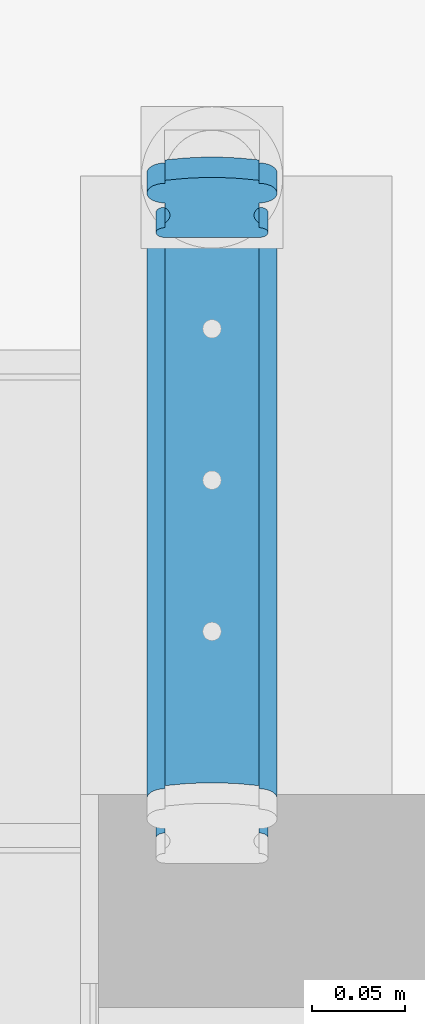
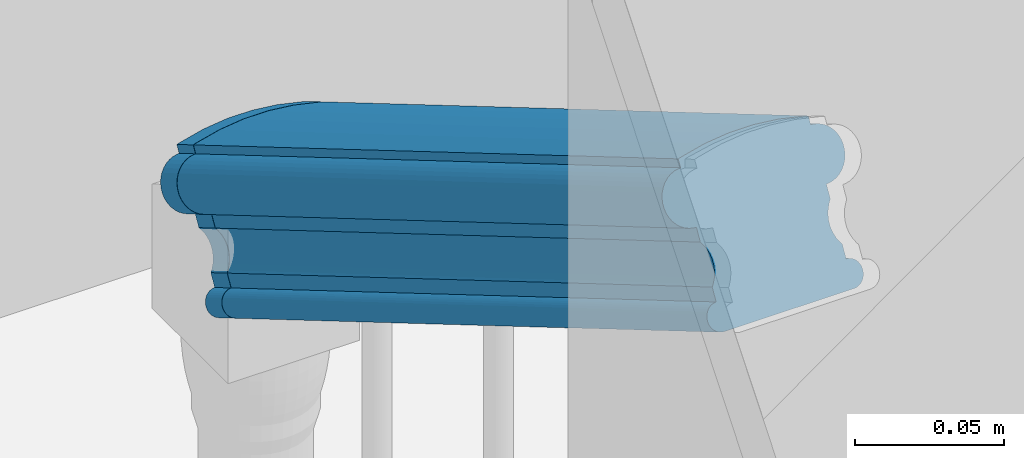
# One storey, part 8 of 24: 2 building element parts, 1 element without a shape of its own.
"""IFC2X3 building model written with IfcOpenShell, lengths in inches."""

import ifcopenshell
import ifcopenshell.guid

model = None  # the IFC model being written
_history = None  # IfcOwnerHistory: only IFC2X3 demands one
_inside = {}  # id of a spatial element -> (the spatial element, [elements in it])
_under = {}  # id of a project, library or spatial element -> (it, [spatial elements below it])
_declared = {}  # id of a project -> (the project, [libraries it declares])
_typed = {}  # id of a type object -> (the type object, [elements of that type])
_made_of = {}  # id of a material, layer set ... -> (it, [elements and type objects made of it])


def new_model(schema):
    """Start an empty IFC model of exactly this schema.

    Asked for "IFC4X3", IfcOpenShell would pick the latest addendum, in which some entities
    have other attributes; the version numbers below select the first issue.
    IFC2X3 requires an IfcOwnerHistory on every rooted entity: one is made here for all.
    """
    global model, _history
    if schema == "IFC4X3":
        model = ifcopenshell.file(schema_version=(4, 3, 0, 0))
    else:
        model = ifcopenshell.file(schema=schema)
    _inside.clear()
    _under.clear()
    _declared.clear()
    _typed.clear()
    _made_of.clear()
    _history = None
    if model.schema == "IFC2X3":
        org = make("IfcOrganization", Name="unknown")
        user = make(
            "IfcPersonAndOrganization",
            ThePerson=make("IfcPerson", FamilyName="unknown"),
            TheOrganization=org,
        )
        app = make(
            "IfcApplication",
            ApplicationDeveloper=org,
            Version="unknown",
            ApplicationFullName="unknown",
            ApplicationIdentifier="unknown",
        )
        _history = make(
            "IfcOwnerHistory",
            OwningUser=user,
            OwningApplication=app,
            ChangeAction="ADDED",
            CreationDate=0,
        )
    return model


def make(cls, **values):
    """One entity of the class cls with the attributes given. An attribute that is None is left unset."""
    return model.create_entity(
        cls, **{name: value for name, value in values.items() if value is not None}
    )


def entity(cls, *values):
    """Any entity or typed value of the class cls, its attributes in the order of the schema. None: left unset."""
    e = model.create_entity(cls)
    for i, value in enumerate(values):
        if value is not None:
            e[i] = value
    return e


def rooted(cls, **values):
    """An entity with a GlobalId (a new one), such as an element, a storey or a relation."""
    return make(cls, GlobalId=ifcopenshell.guid.new(), OwnerHistory=_history, **values)


def si_unit(unit_type, name, prefix=None):
    """IfcSIUnit, for example si_unit("LENGTHUNIT", "METRE", prefix="MILLI")."""
    return make("IfcSIUnit", UnitType=unit_type, Prefix=prefix, Name=name)


def converted_unit(unit_type, name, factor, base, dimensions=None, offset=None):
    """IfcConversionBasedUnit, such as the inch: factor (a typed value) times the base unit."""
    return make(
        "IfcConversionBasedUnit"
        if offset is None
        else "IfcConversionBasedUnitWithOffset",
        ConversionOffset=offset,
        Dimensions=None
        if dimensions is None
        else entity("IfcDimensionalExponents", *dimensions),
        UnitType=unit_type,
        Name=name,
        ConversionFactor=make(
            "IfcMeasureWithUnit", ValueComponent=factor, UnitComponent=base
        ),
    )


def derived_unit(unit_type, elements):
    """IfcDerivedUnit: a product of units, each with its exponent."""
    return make(
        "IfcDerivedUnit",
        Elements=[
            make("IfcDerivedUnitElement", Unit=unit, Exponent=power)
            for unit, power in elements
        ],
        UnitType=unit_type,
    )


def money_unit(currency):
    """IfcMonetaryUnit."""
    return make("IfcMonetaryUnit", Currency=currency)


def assignment(units):
    """IfcUnitAssignment: the units of a project."""
    return None if units is None else make("IfcUnitAssignment", Units=units)


def point(xyz):
    """IfcCartesianPoint."""
    return None if xyz is None else make("IfcCartesianPoint", Coordinates=xyz)


def direction(xyz):
    """IfcDirection."""
    return None if xyz is None else make("IfcDirection", DirectionRatios=xyz)


def frame(location, z_axis=None, x_axis=None):
    """IfcAxis2Placement3D, a coordinate frame: its origin and axes. An axis left out is left unset."""
    return make(
        "IfcAxis2Placement3D",
        Location=point(location),
        Axis=direction(z_axis),
        RefDirection=direction(x_axis),
    )


def origin_with_axes():
    """The frame at (0, 0, 0) with the z axis (0, 0, 1) and the x axis (1, 0, 0) written out."""
    return frame((0.0, 0.0, 0.0), z_axis=(0.0, 0.0, 1.0), x_axis=(1.0, 0.0, 0.0))


def place(relative_to, where):
    """IfcLocalPlacement: puts the frame where relative to a parent placement (None: the world)."""
    return make(
        "IfcLocalPlacement", PlacementRelTo=relative_to, RelativePlacement=where
    )


def context(
    kind, dimensions, precision=None, world=None, true_north=None, identifier=None
):
    """IfcGeometricRepresentationContext, for example the 3D "Model" context."""
    return make(
        "IfcGeometricRepresentationContext",
        ContextIdentifier=identifier,
        ContextType=kind,
        CoordinateSpaceDimension=dimensions,
        Precision=precision,
        WorldCoordinateSystem=world,
        TrueNorth=true_north,
    )


def subcontext(parent, identifier, kind, view, scale=None):
    """IfcGeometricRepresentationSubContext, for example "Body" below "Model"."""
    return make(
        "IfcGeometricRepresentationSubContext",
        ContextIdentifier=identifier,
        ContextType=kind,
        ParentContext=parent,
        TargetScale=scale,
        TargetView=view,
    )


def project(units=None, contexts=None):
    """IfcProject with its units and contexts."""
    return rooted(
        "IfcProject",
        Name="project",
        RepresentationContexts=contexts,
        UnitsInContext=assignment(units),
    )


def spatial(cls, under=None, at=None, **own):
    """A site, building, storey or space (cls), placed at a placement, below another one or the project."""
    s = rooted(cls, ObjectPlacement=at, **own)
    if under is not None:
        _under.setdefault(under.id(), (under, []))[1].append(s)
    return s


def faces_of(points, faces, orient=None, outer=None):
    """IfcFace entities. A face is a list of loops; a loop is a list of indices into points, from 0.

    orient and outer hold one flag for each loop. By default every Orientation is true, the
    first loop of a face is its IfcFaceOuterBound and the others are IfcFaceBound.
    """
    made = []
    for i, loops in enumerate(faces):
        bounds = []
        for j, loop in enumerate(loops):
            is_outer = j == 0 if outer is None else outer[i][j]
            bounds.append(
                make(
                    "IfcFaceOuterBound" if is_outer else "IfcFaceBound",
                    Bound=make("IfcPolyLoop", Polygon=[points[k] for k in loop]),
                    Orientation=True if orient is None else orient[i][j],
                )
            )
        made.append(make("IfcFace", Bounds=bounds))
    return made


def faceted_brep(points, faces, orient=None, outer=None, voids=None):
    """IfcFacetedBrep: a solid bounded by flat faces; with voids (closed shells), ...WithVoids."""
    shared = [point(p) for p in points]
    hull = make("IfcClosedShell", CfsFaces=faces_of(shared, faces, orient, outer))
    if voids is None:
        return make("IfcFacetedBrep", Outer=hull)
    return make(
        "IfcFacetedBrepWithVoids",
        Outer=hull,
        Voids=[
            make(cls, CfsFaces=faces_of(shared, fs, o, b)) for cls, fs, o, b in voids
        ],
    )


def shape(context_of_items, identifier, shape_type, items):
    """IfcShapeRepresentation: the items that make up one representation, for example the "Body"."""
    return make(
        "IfcShapeRepresentation",
        ContextOfItems=context_of_items,
        RepresentationIdentifier=identifier,
        RepresentationType=shape_type,
        Items=items,
    )


def material(Name=None, Category=None):
    """IfcMaterial."""
    return make("IfcMaterial", Name=Name, Category=Category)


def made_of(thing, what):
    """Note that an element or type object is made of a material, layer set ...; save() writes the relation."""
    if what is not None:
        _made_of.setdefault(what.id(), (what, []))[1].append(thing)
    return thing


def type_object(cls, material=None, **own):
    """A type object (cls), such as IfcWallType, which elements share."""
    return made_of(rooted(cls, **own), material)


def element(
    cls,
    number,
    at=None,
    inside=None,
    cuts=None,
    type_object=None,
    material=None,
    context=None,
    identifier="Body",
    shape_type=None,
    held_by="IfcProductDefinitionShape",
    body=None,
    shapes=None,
    **own,
):
    """One element of the class cls, such as IfcWall. Its Tag is "e" and its number.

    at: its placement. inside: the storey or other place that contains it. cuts: it is an
    opening in that element (IfcRelVoidsElement). A single representation is given by context,
    identifier, shape_type and body (its items); several are given by shapes. held_by: the class
    of the entity that holds the representations. save() writes the other relations.
    """
    e = rooted(cls, Tag="e%d" % number, ObjectPlacement=at, **own)
    if body is not None:
        shapes = [shape(context, identifier, shape_type, body)]
    if shapes is not None:
        e.Representation = make(held_by, Representations=shapes)
    if inside is not None:
        _inside.setdefault(inside.id(), (inside, []))[1].append(e)
    if cuts is not None:
        rooted(
            "IfcRelVoidsElement", RelatingBuildingElement=cuts, RelatedOpeningElement=e
        )
    if type_object is not None:
        _typed.setdefault(type_object.id(), (type_object, []))[1].append(e)
    return made_of(e, material)


def aggregate(whole, parts):
    """IfcRelAggregates: a whole, such as a stair, and the parts it consists of."""
    return rooted("IfcRelAggregates", RelatingObject=whole, RelatedObjects=parts)


def save(model, path):
    """Write the relations noted so far, then the file.

    IfcRelAggregates (storeys below a building ...), IfcRelContainedInSpatialStructure (elements
    in a storey), IfcRelDefinesByType, IfcRelAssociatesMaterial and IfcRelDeclares: one each for
    every whole, place, type object, material and project.
    """
    for whole, parts in _under.values():
        aggregate(whole, parts)
    for where, things in _inside.values():
        rooted(
            "IfcRelContainedInSpatialStructure",
            RelatedElements=things,
            RelatingStructure=where,
        )
    for kind, things in _typed.values():
        rooted("IfcRelDefinesByType", RelatedObjects=things, RelatingType=kind)
    for what, things in _made_of.values():
        rooted("IfcRelAssociatesMaterial", RelatedObjects=things, RelatingMaterial=what)
    for by, libraries in _declared.values():
        rooted("IfcRelDeclares", RelatingContext=by, RelatedDefinitions=libraries)
    model.write(path)


model = new_model("IFC2X3")

# Units and contexts
model_context = context("Model", 3, precision=0.000393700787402, world=origin_with_axes(), true_north=direction((0.0, 1.0)))
body_context = subcontext(model_context, "Body", "Model", "MODEL_VIEW")
ifc_project = project(units=[converted_unit("LENGTHUNIT", "INCH", entity("IfcPositiveLengthMeasure", 0.0254), si_unit("LENGTHUNIT", "METRE"), dimensions=[1, 0, 0, 0, 0, 0, 0]), converted_unit("AREAUNIT", "SQUARE_FOOT", entity("IfcPositiveLengthMeasure", 0.09290304), si_unit("AREAUNIT", "SQUARE_METRE"), dimensions=[2, 0, 0, 0, 0, 0, 0]), si_unit("PLANEANGLEUNIT", "RADIAN"), si_unit("SOLIDANGLEUNIT", "STERADIAN"), money_unit("USD"), converted_unit("TIMEUNIT", "Year", entity("IfcTimeMeasure", 31556926.0), si_unit("TIMEUNIT", "SECOND"), dimensions=[0, 0, 1, 0, 0, 0, 0]), si_unit("MASSUNIT", "GRAM", prefix="KILO"), si_unit("THERMODYNAMICTEMPERATUREUNIT", "DEGREE_CELSIUS"), si_unit("LUMINOUSINTENSITYUNIT", "LUMEN"), si_unit("ENERGYUNIT", "JOULE", prefix="MEGA"), derived_unit("THERMALCONDUCTANCEUNIT", [(si_unit("POWERUNIT", "WATT"), 1), (si_unit("LENGTHUNIT", "METRE"), -1), (si_unit("THERMODYNAMICTEMPERATUREUNIT", "KELVIN"), -1)]), derived_unit("SPECIFICHEATCAPACITYUNIT", [(si_unit("ENERGYUNIT", "JOULE"), 1), (si_unit("MASSUNIT", "GRAM", prefix="KILO"), -1), (si_unit("THERMODYNAMICTEMPERATUREUNIT", "KELVIN"), -1)]), derived_unit("MASSDENSITYUNIT", [(si_unit("MASSUNIT", "GRAM", prefix="KILO"), 1), (si_unit("VOLUMEUNIT", "CUBIC_METRE"), -1)])], contexts=[model_context])

# Site, building, storey
site_placement = place(None, origin_with_axes())
site = spatial("IfcSite", under=ifc_project, at=site_placement, Name="Site", CompositionType="ELEMENT")
building_placement = place(site_placement, origin_with_axes())
building = spatial("IfcBuilding", under=site, at=building_placement, Name="Building", CompositionType="ELEMENT")
storey_placement = place(building_placement, origin_with_axes())
storey = spatial("IfcBuildingStorey", under=building, at=storey_placement, Name="First Floor", CompositionType="ELEMENT", Elevation=0.0)

# Railing, building element parts
railing_type = type_object("IfcRailingType", Name="Railing Type", PredefinedType="NOTDEFINED")
railing_placement = place(storey_placement, frame((687.845851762, 140.777338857, -3.51027133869e-07), z_axis=(0.0, 0.0, 1.0), x_axis=(1.0, 0.0, 0.0)))
railing = element("IfcRailing", 1, at=railing_placement, inside=storey, type_object=railing_type, Name="RAILING - 003", PredefinedType="NOTDEFINED")
ifc_material = material(Name="Wood - Structural")
building_element_part_1_placement = place(railing_placement, origin_with_axes())
building_element_part_1 = element("IfcBuildingElementPart", 2, at=building_element_part_1_placement, material=ifc_material, Name="Wood - Structural", context=body_context, shape_type="Brep", body=[
    faceted_brep([(-0.97830768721, 17.09938506, 39.2643890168), (-0.97830768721, 17.03715338, 39.1586992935), (-0.97830768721, 17.4680113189, 38.9050037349), (-0.97830768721, 17.530242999, 39.0106934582), (-1.03685591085, 17.1066135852, 39.2766654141), (-1.40666376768, 17.1417652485, 39.3363644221), (-1.78074756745, 17.159408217, 39.3663279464), (-2.15626030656, 17.159408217, 39.3663279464), (-2.53034410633, 17.1417652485, 39.3363644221), (-2.90015196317, 17.1066135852, 39.2766654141), (-2.95870018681, 17.09938506, 39.2643890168), (-2.95870018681, 17.03715338, 39.1586992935), (-2.99223804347, 17.0363640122, 39.1573586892), (-3.05829472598, 17.0300850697, 39.1466949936), (-3.12132527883, 17.0177179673, 39.1256916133), (-3.17941455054, 16.9996384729, 39.0949867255), (-3.230797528, 16.9763959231, 39.0555132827), (-3.27391296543, 16.9486965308, 39.0084706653), (-3.30745082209, 16.917381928, 38.9552882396), (-3.33039206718, 16.8834035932, 38.8975819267), (-3.34203964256, 16.8477939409, 38.8371051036), (-3.34203964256, 16.8116349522, 38.775695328), (-3.33039206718, 16.7760252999, 38.7152185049), (-3.30745082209, 16.7420469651, 38.657512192), (-3.27391296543, 16.7107323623, 38.6043297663), (-3.230797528, 16.68303297, 38.5572871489), (-3.17941455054, 16.6597904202, 38.5178137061), (-3.12132527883, 16.6417109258, 38.4871088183), (-3.05829472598, 16.6293438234, 38.4661054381), (-2.99223804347, 16.6230648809, 38.4554417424), (-2.95870018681, 16.6222755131, 38.4541011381), (-2.95870018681, 16.5185560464, 38.2779515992), (-2.93612331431, 16.502600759, 38.2508543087), (-2.89633013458, 16.465445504, 38.1877525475), (-2.86910999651, 16.4251296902, 38.1192831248), (-2.85528997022, 16.3828782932, 38.0475264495), (-2.85528997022, 16.3399751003, 37.9746628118), (-2.86910999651, 16.2977237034, 37.9029061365), (-2.89633013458, 16.2574078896, 37.8344367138), (-2.93612331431, 16.2202526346, 37.7713349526), (-2.95870018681, 16.2042973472, 37.7442376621), (-2.95870018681, 16.1005778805, 37.5680881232), (-2.97546911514, 16.1001831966, 37.567417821), (-3.0084974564, 16.0970437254, 37.5620859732), (-3.04001273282, 16.0908601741, 37.5515842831), (-3.06905736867, 16.081820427, 37.5362318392), (-3.0947488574, 16.070199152, 37.5164951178), (-3.11630657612, 16.0563494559, 37.4929738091), (-3.13307550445, 16.0406921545, 37.4663825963), (-3.14454612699, 16.0237029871, 37.4375294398), (-3.15036991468, 16.0058981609, 37.4072910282), (-3.15036991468, 15.9878186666, 37.3765861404), (-3.14454612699, 15.9700138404, 37.3463477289), (-3.13307550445, 15.953024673, 37.3174945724), (-3.11630657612, 15.9373673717, 37.2909033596), (-3.0947488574, 15.9235176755, 37.2673820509), (-3.06905736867, 15.9118964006, 37.2476453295), (-3.04001273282, 15.9028566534, 37.2322928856), (-3.0084974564, 15.8966731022, 37.2217911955), (-2.97546911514, 15.8935336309, 37.2164593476), (-2.95870018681, 15.893138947, 37.2157890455), (-0.97830768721, 15.893138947, 37.2157890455), (-0.96153875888, 15.8935336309, 37.2164593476), (-0.928510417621, 15.8966731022, 37.2217911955), (-0.896995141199, 15.9028566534, 37.2322928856), (-0.867950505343, 15.9118964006, 37.2476453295), (-0.842259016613, 15.9235176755, 37.2673820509), (-0.820701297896, 15.9373673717, 37.2909033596), (-0.803932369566, 15.953024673, 37.3174945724), (-0.792461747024, 15.9700138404, 37.3463477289), (-0.786637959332, 15.9878186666, 37.3765861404), (-0.786637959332, 16.0058981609, 37.4072910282), (-0.792461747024, 16.0237029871, 37.4375294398), (-0.803932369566, 16.0406921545, 37.4663825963), (-0.820701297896, 16.0563494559, 37.4929738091), (-0.842259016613, 16.070199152, 37.5164951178), (-0.867950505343, 16.081820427, 37.5362318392), (-0.896995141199, 16.0908601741, 37.5515842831), (-0.928510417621, 16.0970437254, 37.5620859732), (-0.96153875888, 16.1001831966, 37.567417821), (-0.97830768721, 16.1005778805, 37.5680881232), (-0.97830768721, 16.2042973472, 37.7442376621), (-1.00088455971, 16.2202526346, 37.7713349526), (-1.04067773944, 16.2574078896, 37.8344367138), (-1.06789787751, 16.2977237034, 37.9029061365), (-1.08171790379, 16.3399751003, 37.9746628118), (-1.08171790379, 16.3828782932, 38.0475264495), (-1.06789787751, 16.4251296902, 38.1192831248), (-1.04067773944, 16.465445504, 38.1877525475), (-1.00088455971, 16.502600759, 38.2508543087), (-0.97830768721, 16.5185560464, 38.2779515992), (-0.97830768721, 16.6222755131, 38.4541011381), (-0.944769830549, 16.6230648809, 38.4554417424), (-0.878713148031, 16.6293438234, 38.4661054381), (-0.815682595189, 16.6417109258, 38.4871088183), (-0.757593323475, 16.6597904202, 38.5178137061), (-0.706210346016, 16.68303297, 38.5572871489), (-0.663094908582, 16.7107323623, 38.6043297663), (-0.629557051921, 16.7420469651, 38.657512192), (-0.606615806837, 16.7760252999, 38.7152185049), (-0.594968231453, 16.8116349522, 38.775695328), (-0.594968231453, 16.8477939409, 38.8371051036), (-0.606615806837, 16.8834035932, 38.8975819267), (-0.629557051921, 16.917381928, 38.9552882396), (-0.663094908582, 16.9486965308, 39.0084706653), (-0.706210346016, 16.9763959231, 39.0555132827), (-0.757593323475, 16.9996384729, 39.0949867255), (-0.815682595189, 17.0177179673, 39.1256916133), (-0.878713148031, 17.0300850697, 39.1466949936), (-0.944769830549, 17.0363640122, 39.1573586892), (-0.944769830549, 17.4672219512, 38.9036631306), (-0.878713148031, 17.4609430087, 38.8929994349), (-0.815682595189, 17.4485759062, 38.8719960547), (-0.757593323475, 17.4304964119, 38.8412911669), (-0.706210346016, 17.407253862, 38.8018177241), (-0.663094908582, 17.3795544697, 38.7547751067), (-0.629557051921, 17.348239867, 38.701592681), (-0.606615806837, 17.3142615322, 38.6438863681), (-0.594968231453, 17.2786518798, 38.583409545), (-0.594968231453, 17.2424928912, 38.5219997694), (-0.606615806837, 17.2068832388, 38.4615229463), (-0.629557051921, 17.172904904, 38.4038166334), (-0.663094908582, 17.1415903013, 38.3506342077), (-0.706210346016, 17.113890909, 38.3035915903), (-0.757593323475, 17.0906483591, 38.2641181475), (-0.815682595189, 17.0725688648, 38.2334132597), (-0.878713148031, 17.0602017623, 38.2124098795), (-0.944769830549, 17.0539228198, 38.2017461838), (-0.97830768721, 17.053133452, 38.2004055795), (-0.97830768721, 16.9494139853, 38.0242560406), (-1.00088455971, 16.9334586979, 37.9971587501), (-1.04067773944, 16.8963034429, 37.9340569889), (-1.06789787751, 16.8559876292, 37.8655875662), (-1.08171790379, 16.8137362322, 37.7938308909), (-1.08171790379, 16.7708330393, 37.7209672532), (-1.06789787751, 16.7285816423, 37.6492105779), (-1.04067773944, 16.6882658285, 37.5807411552), (-1.00088455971, 16.6511105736, 37.517639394), (-0.97830768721, 16.6351552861, 37.4905421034), (-0.97830768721, 16.5314358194, 37.3143925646), (-0.96153875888, 16.5310411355, 37.3137222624), (-0.928510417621, 16.5279016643, 37.3083904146), (-0.896995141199, 16.5217181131, 37.2978887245), (-0.867950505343, 16.5126783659, 37.2825362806), (-0.842259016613, 16.501057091, 37.2627995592), (-0.820701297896, 16.4872073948, 37.2392782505), (-0.803932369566, 16.4715500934, 37.2126870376), (-0.792461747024, 16.454560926, 37.1838338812), (-0.786637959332, 16.4367560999, 37.1535954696), (-0.786637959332, 16.4186766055, 37.1228905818), (-0.792461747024, 16.4008717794, 37.0926521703), (-0.803932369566, 16.383882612, 37.0637990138), (-0.820701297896, 16.3682253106, 37.037207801), (-0.842259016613, 16.3543756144, 37.0136864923), (-0.867950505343, 16.3427543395, 36.9939497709), (-0.896995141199, 16.3337145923, 36.978597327), (-0.928510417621, 16.3275310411, 36.9680956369), (-0.96153875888, 16.3243915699, 36.962763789), (-0.97830768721, 16.323996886, 36.9620934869), (-2.95870018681, 16.323996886, 36.9620934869), (-2.97546911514, 16.3243915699, 36.962763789), (-3.0084974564, 16.3275310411, 36.9680956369), (-3.04001273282, 16.3337145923, 36.978597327), (-3.06905736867, 16.3427543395, 36.9939497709), (-3.0947488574, 16.3543756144, 37.0136864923), (-3.11630657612, 16.3682253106, 37.037207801), (-3.13307550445, 16.383882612, 37.0637990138), (-3.14454612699, 16.4008717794, 37.0926521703), (-3.15036991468, 16.4186766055, 37.1228905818), (-3.15036991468, 16.4367560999, 37.1535954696), (-3.14454612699, 16.454560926, 37.1838338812), (-3.13307550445, 16.4715500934, 37.2126870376), (-3.11630657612, 16.4872073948, 37.2392782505), (-3.0947488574, 16.501057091, 37.2627995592), (-3.06905736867, 16.5126783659, 37.2825362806), (-3.04001273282, 16.5217181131, 37.2978887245), (-3.0084974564, 16.5279016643, 37.3083904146), (-2.97546911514, 16.5310411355, 37.3137222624), (-2.95870018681, 16.5314358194, 37.3143925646), (-2.95870018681, 16.6351552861, 37.4905421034), (-2.93612331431, 16.6511105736, 37.517639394), (-2.89633013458, 16.6882658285, 37.5807411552), (-2.86910999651, 16.7285816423, 37.6492105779), (-2.85528997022, 16.7708330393, 37.7209672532), (-2.85528997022, 16.8137362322, 37.7938308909), (-2.86910999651, 16.8559876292, 37.8655875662), (-2.89633013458, 16.8963034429, 37.9340569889), (-2.93612331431, 16.9334586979, 37.9971587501), (-2.95870018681, 16.9494139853, 38.0242560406), (-2.95870018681, 17.053133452, 38.2004055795), (-2.99223804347, 17.0539228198, 38.2017461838), (-3.05829472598, 17.0602017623, 38.2124098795), (-3.12132527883, 17.0725688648, 38.2334132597), (-3.17941455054, 17.0906483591, 38.2641181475), (-3.230797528, 17.113890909, 38.3035915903), (-3.27391296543, 17.1415903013, 38.3506342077), (-3.30745082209, 17.172904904, 38.4038166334), (-3.33039206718, 17.2068832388, 38.4615229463), (-3.34203964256, 17.2424928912, 38.5219997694), (-3.34203964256, 17.2786518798, 38.583409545), (-3.33039206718, 17.3142615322, 38.6438863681), (-3.30745082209, 17.348239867, 38.701592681), (-3.27391296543, 17.3795544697, 38.7547751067), (-3.230797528, 17.407253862, 38.8018177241), (-3.17941455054, 17.4304964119, 38.8412911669), (-3.12132527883, 17.4485759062, 38.8719960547), (-3.05829472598, 17.4609430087, 38.8929994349), (-2.99223804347, 17.4672219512, 38.9036631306), (-2.95870018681, 17.4680113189, 38.9050037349), (-2.95870018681, 17.530242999, 39.0106934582), (-2.90015196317, 17.5374715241, 39.0229698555), (-2.53034410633, 17.5726231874, 39.0826688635), (-2.15626030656, 17.5902661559, 39.1126323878), (-1.78074756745, 17.5902661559, 39.1126323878), (-1.40666376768, 17.5726231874, 39.0826688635), (-1.03685591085, 17.5374715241, 39.0229698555)], [[[0, 1, 2, 3]], [[0, 4, 5, 6, 7, 8, 9, 10, 11, 12, 13, 14, 15, 16, 17, 18, 19, 20, 21, 22, 23, 24, 25, 26, 27, 28, 29, 30, 31, 32, 33, 34, 35, 36, 37, 38, 39, 40, 41, 42, 43, 44, 45, 46, 47, 48, 49, 50, 51, 52, 53, 54, 55, 56, 57, 58, 59, 60, 61, 62, 63, 64, 65, 66, 67, 68, 69, 70, 71, 72, 73, 74, 75, 76, 77, 78, 79, 80, 81, 82, 83, 84, 85, 86, 87, 88, 89, 90, 91, 92, 93, 94, 95, 96, 97, 98, 99, 100, 101, 102, 103, 104, 105, 106, 107, 108, 109, 1]], [[1, 109, 110, 2]], [[3, 2, 110, 111, 112, 113, 114, 115, 116, 117, 118, 119, 120, 121, 122, 123, 124, 125, 126, 127, 128, 129, 130, 131, 132, 133, 134, 135, 136, 137, 138, 139, 140, 141, 142, 143, 144, 145, 146, 147, 148, 149, 150, 151, 152, 153, 154, 155, 156, 157, 158, 159, 160, 161, 162, 163, 164, 165, 166, 167, 168, 169, 170, 171, 172, 173, 174, 175, 176, 177, 178, 179, 180, 181, 182, 183, 184, 185, 186, 187, 188, 189, 190, 191, 192, 193, 194, 195, 196, 197, 198, 199, 200, 201, 202, 203, 204, 205, 206, 207, 208, 209, 210, 211, 212, 213, 214, 215]], [[4, 0, 3, 215]], [[5, 4, 215, 214]], [[6, 5, 214, 213]], [[7, 6, 213, 212]], [[8, 7, 212, 211]], [[9, 8, 211, 210]], [[10, 9, 210, 209]], [[11, 10, 209, 208]], [[12, 11, 208, 207]], [[13, 12, 207, 206]], [[14, 13, 206, 205]], [[15, 14, 205, 204]], [[16, 15, 204, 203]], [[17, 16, 203, 202]], [[18, 17, 202, 201]], [[19, 18, 201, 200]], [[20, 19, 200, 199]], [[21, 20, 199, 198]], [[22, 21, 198, 197]], [[23, 22, 197, 196]], [[24, 23, 196, 195]], [[25, 24, 195, 194]], [[26, 25, 194, 193]], [[27, 26, 193, 192]], [[28, 27, 192, 191]], [[29, 28, 191, 190]], [[30, 29, 190, 189]], [[31, 30, 189, 188]], [[32, 31, 188, 187]], [[33, 32, 187, 186]], [[34, 33, 186, 185]], [[35, 34, 185, 184]], [[36, 35, 184, 183]], [[37, 36, 183, 182]], [[38, 37, 182, 181]], [[39, 38, 181, 180]], [[40, 39, 180, 179]], [[41, 40, 179, 178]], [[42, 41, 178, 177]], [[43, 42, 177, 176]], [[44, 43, 176, 175]], [[45, 44, 175, 174]], [[46, 45, 174, 173]], [[47, 46, 173, 172]], [[48, 47, 172, 171]], [[49, 48, 171, 170]], [[50, 49, 170, 169]], [[51, 50, 169, 168]], [[52, 51, 168, 167]], [[53, 52, 167, 166]], [[54, 53, 166, 165]], [[55, 54, 165, 164]], [[56, 55, 164, 163]], [[57, 56, 163, 162]], [[58, 57, 162, 161]], [[59, 58, 161, 160]], [[60, 59, 160, 159]], [[61, 60, 159, 158]], [[62, 61, 158, 157]], [[63, 62, 157, 156]], [[64, 63, 156, 155]], [[65, 64, 155, 154]], [[66, 65, 154, 153]], [[67, 66, 153, 152]], [[68, 67, 152, 151]], [[69, 68, 151, 150]], [[70, 69, 150, 149]], [[71, 70, 149, 148]], [[72, 71, 148, 147]], [[73, 72, 147, 146]], [[74, 73, 146, 145]], [[75, 74, 145, 144]], [[76, 75, 144, 143]], [[77, 76, 143, 142]], [[78, 77, 142, 141]], [[79, 78, 141, 140]], [[80, 79, 140, 139]], [[81, 80, 139, 138]], [[82, 81, 138, 137]], [[83, 82, 137, 136]], [[84, 83, 136, 135]], [[85, 84, 135, 134]], [[86, 85, 134, 133]], [[87, 86, 133, 132]], [[88, 87, 132, 131]], [[89, 88, 131, 130]], [[90, 89, 130, 129]], [[91, 90, 129, 128]], [[92, 91, 128, 127]], [[93, 92, 127, 126]], [[94, 93, 126, 125]], [[95, 94, 125, 124]], [[96, 95, 124, 123]], [[97, 96, 123, 122]], [[98, 97, 122, 121]], [[99, 98, 121, 120]], [[100, 99, 120, 119]], [[101, 100, 119, 118]], [[102, 101, 118, 117]], [[103, 102, 117, 116]], [[104, 103, 116, 115]], [[105, 104, 115, 114]], [[106, 105, 114, 113]], [[107, 106, 113, 112]], [[108, 107, 112, 111]], [[109, 108, 111, 110]]]),
])
building_element_part_2_placement = place(railing_placement, origin_with_axes())
building_element_part_2 = element("IfcBuildingElementPart", 3, at=building_element_part_2_placement, material=ifc_material, Name="Wood - Structural", context=body_context, shape_type="Brep", body=[
    faceted_brep([(-0.97830768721, 4.31198348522, 46.7938011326), (-0.97830768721, 4.24975180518, 46.6881114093), (-0.97830768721, 17.03715338, 39.1586992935), (-0.97830768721, 17.09938506, 39.2643890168), (-1.03685591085, 4.31921201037, 46.8060775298), (-1.40666376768, 4.35436367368, 46.8657765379), (-1.78074756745, 4.37200664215, 46.8957400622), (-2.15626030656, 4.37200664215, 46.8957400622), (-2.53034410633, 4.35436367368, 46.8657765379), (-2.90015196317, 4.31921201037, 46.8060775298), (-2.95870018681, 4.31198348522, 46.7938011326), (-2.95870018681, 4.24975180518, 46.6881114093), (-2.99223804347, 4.24896243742, 46.6867708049), (-3.05829472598, 4.24268349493, 46.6761071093), (-3.12132527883, 4.23031639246, 46.655103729), (-3.17941455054, 4.21223689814, 46.6243988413), (-3.230797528, 4.18899434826, 46.5849253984), (-3.27391296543, 4.16129495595, 46.5378827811), (-3.30745082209, 4.12998035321, 46.4847003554), (-3.33039206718, 4.09600201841, 46.4269940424), (-3.34203964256, 4.06039236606, 46.3665172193), (-3.34203964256, 4.02423337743, 46.3051074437), (-3.33039206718, 3.98862372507, 46.2446306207), (-3.30745082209, 3.95464539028, 46.1869243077), (-3.27391296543, 3.92333078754, 46.133741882), (-3.230797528, 3.89563139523, 46.0866992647), (-3.17941455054, 3.87238884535, 46.0472258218), (-3.12132527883, 3.85430935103, 46.016520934), (-3.05829472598, 3.84194224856, 45.9955175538), (-2.99223804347, 3.83566330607, 45.9848538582), (-2.95870018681, 3.8348739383, 45.9835132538), (-2.95870018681, 3.73115447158, 45.807363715), (-2.93612331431, 3.71519918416, 45.7802664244), (-2.89633013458, 3.67804392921, 45.7171646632), (-2.86910999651, 3.63772811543, 45.6486952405), (-2.85528997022, 3.59547671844, 45.5769385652), (-2.85528997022, 3.55257352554, 45.5040749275), (-2.86910999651, 3.51032212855, 45.4323182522), (-2.89633013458, 3.47000631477, 45.3638488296), (-2.93612331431, 3.43285105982, 45.3007470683), (-2.95870018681, 3.4168957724, 45.2736497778), (-2.95870018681, 3.31317630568, 45.0975002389), (-2.97546911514, 3.31278162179, 45.0968299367), (-3.0084974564, 3.30964215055, 45.0914980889), (-3.04001273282, 3.30345859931, 45.0809963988), (-3.06905736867, 3.29441885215, 45.0656439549), (-3.0947488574, 3.28279757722, 45.0459072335), (-3.11630657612, 3.26894788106, 45.0223859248), (-3.13307550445, 3.25329057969, 44.995794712), (-3.14454612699, 3.23630141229, 44.9669415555), (-3.15036991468, 3.21849658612, 44.936703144), (-3.15036991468, 3.2004170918, 44.9059982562), (-3.14454612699, 3.18261226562, 44.8757598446), (-3.13307550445, 3.16562309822, 44.8469066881), (-3.11630657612, 3.14996579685, 44.8203154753), (-3.0947488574, 3.1361161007, 44.7967941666), (-3.06905736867, 3.12449482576, 44.7770574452), (-3.04001273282, 3.1154550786, 44.7617050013), (-3.0084974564, 3.10927152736, 44.7512033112), (-2.97546911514, 3.10613205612, 44.7458714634), (-2.95870018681, 3.10573737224, 44.7452011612), (-0.97830768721, 3.10573737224, 44.7452011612), (-0.96153875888, 3.10613205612, 44.7458714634), (-0.928510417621, 3.10927152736, 44.7512033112), (-0.896995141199, 3.1154550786, 44.7617050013), (-0.867950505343, 3.12449482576, 44.7770574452), (-0.842259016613, 3.1361161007, 44.7967941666), (-0.820701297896, 3.14996579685, 44.8203154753), (-0.803932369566, 3.16562309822, 44.8469066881), (-0.792461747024, 3.18261226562, 44.8757598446), (-0.786637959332, 3.2004170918, 44.9059982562), (-0.786637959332, 3.21849658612, 44.936703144), (-0.792461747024, 3.23630141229, 44.9669415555), (-0.803932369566, 3.25329057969, 44.995794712), (-0.820701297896, 3.26894788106, 45.0223859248), (-0.842259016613, 3.28279757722, 45.0459072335), (-0.867950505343, 3.29441885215, 45.0656439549), (-0.896995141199, 3.30345859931, 45.0809963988), (-0.928510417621, 3.30964215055, 45.0914980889), (-0.96153875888, 3.31278162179, 45.0968299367), (-0.97830768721, 3.31317630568, 45.0975002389), (-0.97830768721, 3.4168957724, 45.2736497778), (-1.00088455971, 3.43285105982, 45.3007470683), (-1.04067773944, 3.47000631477, 45.3638488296), (-1.06789787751, 3.51032212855, 45.4323182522), (-1.08171790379, 3.55257352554, 45.5040749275), (-1.08171790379, 3.59547671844, 45.5769385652), (-1.06789787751, 3.63772811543, 45.6486952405), (-1.04067773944, 3.67804392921, 45.7171646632), (-1.00088455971, 3.71519918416, 45.7802664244), (-0.97830768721, 3.73115447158, 45.807363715), (-0.97830768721, 3.8348739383, 45.9835132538), (-0.944769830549, 3.83566330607, 45.9848538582), (-0.878713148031, 3.84194224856, 45.9955175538), (-0.815682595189, 3.85430935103, 46.016520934), (-0.757593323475, 3.87238884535, 46.0472258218), (-0.706210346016, 3.89563139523, 46.0866992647), (-0.663094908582, 3.92333078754, 46.133741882), (-0.629557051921, 3.95464539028, 46.1869243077), (-0.606615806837, 3.98862372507, 46.2446306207), (-0.594968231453, 4.02423337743, 46.3051074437), (-0.594968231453, 4.06039236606, 46.3665172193), (-0.606615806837, 4.09600201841, 46.4269940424), (-0.629557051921, 4.12998035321, 46.4847003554), (-0.663094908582, 4.16129495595, 46.5378827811), (-0.706210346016, 4.18899434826, 46.5849253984), (-0.757593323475, 4.21223689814, 46.6243988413), (-0.815682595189, 4.23031639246, 46.655103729), (-0.878713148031, 4.24268349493, 46.6761071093), (-0.944769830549, 4.24896243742, 46.6867708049), (-0.944769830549, 17.0363640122, 39.1573586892), (-0.878713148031, 17.0300850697, 39.1466949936), (-0.815682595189, 17.0177179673, 39.1256916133), (-0.757593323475, 16.9996384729, 39.0949867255), (-0.706210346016, 16.9763959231, 39.0555132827), (-0.663094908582, 16.9486965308, 39.0084706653), (-0.629557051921, 16.917381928, 38.9552882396), (-0.606615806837, 16.8834035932, 38.8975819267), (-0.594968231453, 16.8477939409, 38.8371051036), (-0.594968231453, 16.8116349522, 38.775695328), (-0.606615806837, 16.7760252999, 38.7152185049), (-0.629557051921, 16.7420469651, 38.657512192), (-0.663094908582, 16.7107323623, 38.6043297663), (-0.706210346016, 16.68303297, 38.5572871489), (-0.757593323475, 16.6597904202, 38.5178137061), (-0.815682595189, 16.6417109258, 38.4871088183), (-0.878713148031, 16.6293438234, 38.4661054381), (-0.944769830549, 16.6230648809, 38.4554417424), (-0.97830768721, 16.6222755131, 38.4541011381), (-0.97830768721, 16.5185560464, 38.2779515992), (-1.00088455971, 16.502600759, 38.2508543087), (-1.04067773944, 16.465445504, 38.1877525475), (-1.06789787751, 16.4251296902, 38.1192831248), (-1.08171790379, 16.3828782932, 38.0475264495), (-1.08171790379, 16.3399751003, 37.9746628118), (-1.06789787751, 16.2977237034, 37.9029061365), (-1.04067773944, 16.2574078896, 37.8344367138), (-1.00088455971, 16.2202526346, 37.7713349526), (-0.97830768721, 16.2042973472, 37.7442376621), (-0.97830768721, 16.1005778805, 37.5680881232), (-0.96153875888, 16.1001831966, 37.567417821), (-0.928510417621, 16.0970437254, 37.5620859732), (-0.896995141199, 16.0908601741, 37.5515842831), (-0.867950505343, 16.081820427, 37.5362318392), (-0.842259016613, 16.070199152, 37.5164951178), (-0.820701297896, 16.0563494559, 37.4929738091), (-0.803932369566, 16.0406921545, 37.4663825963), (-0.792461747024, 16.0237029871, 37.4375294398), (-0.786637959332, 16.0058981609, 37.4072910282), (-0.786637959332, 15.9878186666, 37.3765861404), (-0.792461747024, 15.9700138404, 37.3463477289), (-0.803932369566, 15.953024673, 37.3174945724), (-0.820701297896, 15.9373673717, 37.2909033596), (-0.842259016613, 15.9235176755, 37.2673820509), (-0.867950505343, 15.9118964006, 37.2476453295), (-0.896995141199, 15.9028566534, 37.2322928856), (-0.928510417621, 15.8966731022, 37.2217911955), (-0.96153875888, 15.8935336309, 37.2164593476), (-0.97830768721, 15.893138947, 37.2157890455), (-2.95870018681, 15.893138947, 37.2157890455), (-2.97546911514, 15.8935336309, 37.2164593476), (-3.0084974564, 15.8966731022, 37.2217911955), (-3.04001273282, 15.9028566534, 37.2322928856), (-3.06905736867, 15.9118964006, 37.2476453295), (-3.0947488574, 15.9235176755, 37.2673820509), (-3.11630657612, 15.9373673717, 37.2909033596), (-3.13307550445, 15.953024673, 37.3174945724), (-3.14454612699, 15.9700138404, 37.3463477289), (-3.15036991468, 15.9878186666, 37.3765861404), (-3.15036991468, 16.0058981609, 37.4072910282), (-3.14454612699, 16.0237029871, 37.4375294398), (-3.13307550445, 16.0406921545, 37.4663825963), (-3.11630657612, 16.0563494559, 37.4929738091), (-3.0947488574, 16.070199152, 37.5164951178), (-3.06905736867, 16.081820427, 37.5362318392), (-3.04001273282, 16.0908601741, 37.5515842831), (-3.0084974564, 16.0970437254, 37.5620859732), (-2.97546911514, 16.1001831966, 37.567417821), (-2.95870018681, 16.1005778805, 37.5680881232), (-2.95870018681, 16.2042973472, 37.7442376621), (-2.93612331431, 16.2202526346, 37.7713349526), (-2.89633013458, 16.2574078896, 37.8344367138), (-2.86910999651, 16.2977237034, 37.9029061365), (-2.85528997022, 16.3399751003, 37.9746628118), (-2.85528997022, 16.3828782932, 38.0475264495), (-2.86910999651, 16.4251296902, 38.1192831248), (-2.89633013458, 16.465445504, 38.1877525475), (-2.93612331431, 16.502600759, 38.2508543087), (-2.95870018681, 16.5185560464, 38.2779515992), (-2.95870018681, 16.6222755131, 38.4541011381), (-2.99223804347, 16.6230648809, 38.4554417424), (-3.05829472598, 16.6293438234, 38.4661054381), (-3.12132527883, 16.6417109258, 38.4871088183), (-3.17941455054, 16.6597904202, 38.5178137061), (-3.230797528, 16.68303297, 38.5572871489), (-3.27391296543, 16.7107323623, 38.6043297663), (-3.30745082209, 16.7420469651, 38.657512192), (-3.33039206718, 16.7760252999, 38.7152185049), (-3.34203964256, 16.8116349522, 38.775695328), (-3.34203964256, 16.8477939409, 38.8371051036), (-3.33039206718, 16.8834035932, 38.8975819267), (-3.30745082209, 16.917381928, 38.9552882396), (-3.27391296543, 16.9486965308, 39.0084706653), (-3.230797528, 16.9763959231, 39.0555132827), (-3.17941455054, 16.9996384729, 39.0949867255), (-3.12132527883, 17.0177179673, 39.1256916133), (-3.05829472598, 17.0300850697, 39.1466949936), (-2.99223804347, 17.0363640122, 39.1573586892), (-2.95870018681, 17.03715338, 39.1586992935), (-2.95870018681, 17.09938506, 39.2643890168), (-2.90015196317, 17.1066135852, 39.2766654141), (-2.53034410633, 17.1417652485, 39.3363644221), (-2.15626030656, 17.159408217, 39.3663279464), (-1.78074756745, 17.159408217, 39.3663279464), (-1.40666376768, 17.1417652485, 39.3363644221), (-1.03685591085, 17.1066135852, 39.2766654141)], [[[0, 1, 2, 3]], [[0, 4, 5, 6, 7, 8, 9, 10, 11, 12, 13, 14, 15, 16, 17, 18, 19, 20, 21, 22, 23, 24, 25, 26, 27, 28, 29, 30, 31, 32, 33, 34, 35, 36, 37, 38, 39, 40, 41, 42, 43, 44, 45, 46, 47, 48, 49, 50, 51, 52, 53, 54, 55, 56, 57, 58, 59, 60, 61, 62, 63, 64, 65, 66, 67, 68, 69, 70, 71, 72, 73, 74, 75, 76, 77, 78, 79, 80, 81, 82, 83, 84, 85, 86, 87, 88, 89, 90, 91, 92, 93, 94, 95, 96, 97, 98, 99, 100, 101, 102, 103, 104, 105, 106, 107, 108, 109, 1]], [[1, 109, 110, 2]], [[3, 2, 110, 111, 112, 113, 114, 115, 116, 117, 118, 119, 120, 121, 122, 123, 124, 125, 126, 127, 128, 129, 130, 131, 132, 133, 134, 135, 136, 137, 138, 139, 140, 141, 142, 143, 144, 145, 146, 147, 148, 149, 150, 151, 152, 153, 154, 155, 156, 157, 158, 159, 160, 161, 162, 163, 164, 165, 166, 167, 168, 169, 170, 171, 172, 173, 174, 175, 176, 177, 178, 179, 180, 181, 182, 183, 184, 185, 186, 187, 188, 189, 190, 191, 192, 193, 194, 195, 196, 197, 198, 199, 200, 201, 202, 203, 204, 205, 206, 207, 208, 209, 210, 211, 212, 213, 214, 215]], [[4, 0, 3, 215]], [[5, 4, 215, 214]], [[6, 5, 214, 213]], [[7, 6, 213, 212]], [[8, 7, 212, 211]], [[9, 8, 211, 210]], [[10, 9, 210, 209]], [[11, 10, 209, 208]], [[12, 11, 208, 207]], [[13, 12, 207, 206]], [[14, 13, 206, 205]], [[15, 14, 205, 204]], [[16, 15, 204, 203]], [[17, 16, 203, 202]], [[18, 17, 202, 201]], [[19, 18, 201, 200]], [[20, 19, 200, 199]], [[21, 20, 199, 198]], [[22, 21, 198, 197]], [[23, 22, 197, 196]], [[24, 23, 196, 195]], [[25, 24, 195, 194]], [[26, 25, 194, 193]], [[27, 26, 193, 192]], [[28, 27, 192, 191]], [[29, 28, 191, 190]], [[30, 29, 190, 189]], [[31, 30, 189, 188]], [[32, 31, 188, 187]], [[33, 32, 187, 186]], [[34, 33, 186, 185]], [[35, 34, 185, 184]], [[36, 35, 184, 183]], [[37, 36, 183, 182]], [[38, 37, 182, 181]], [[39, 38, 181, 180]], [[40, 39, 180, 179]], [[41, 40, 179, 178]], [[42, 41, 178, 177]], [[43, 42, 177, 176]], [[44, 43, 176, 175]], [[45, 44, 175, 174]], [[46, 45, 174, 173]], [[47, 46, 173, 172]], [[48, 47, 172, 171]], [[49, 48, 171, 170]], [[50, 49, 170, 169]], [[51, 50, 169, 168]], [[52, 51, 168, 167]], [[53, 52, 167, 166]], [[54, 53, 166, 165]], [[55, 54, 165, 164]], [[56, 55, 164, 163]], [[57, 56, 163, 162]], [[58, 57, 162, 161]], [[59, 58, 161, 160]], [[60, 59, 160, 159]], [[61, 60, 159, 158]], [[62, 61, 158, 157]], [[63, 62, 157, 156]], [[64, 63, 156, 155]], [[65, 64, 155, 154]], [[66, 65, 154, 153]], [[67, 66, 153, 152]], [[68, 67, 152, 151]], [[69, 68, 151, 150]], [[70, 69, 150, 149]], [[71, 70, 149, 148]], [[72, 71, 148, 147]], [[73, 72, 147, 146]], [[74, 73, 146, 145]], [[75, 74, 145, 144]], [[76, 75, 144, 143]], [[77, 76, 143, 142]], [[78, 77, 142, 141]], [[79, 78, 141, 140]], [[80, 79, 140, 139]], [[81, 80, 139, 138]], [[82, 81, 138, 137]], [[83, 82, 137, 136]], [[84, 83, 136, 135]], [[85, 84, 135, 134]], [[86, 85, 134, 133]], [[87, 86, 133, 132]], [[88, 87, 132, 131]], [[89, 88, 131, 130]], [[90, 89, 130, 129]], [[91, 90, 129, 128]], [[92, 91, 128, 127]], [[93, 92, 127, 126]], [[94, 93, 126, 125]], [[95, 94, 125, 124]], [[96, 95, 124, 123]], [[97, 96, 123, 122]], [[98, 97, 122, 121]], [[99, 98, 121, 120]], [[100, 99, 120, 119]], [[101, 100, 119, 118]], [[102, 101, 118, 117]], [[103, 102, 117, 116]], [[104, 103, 116, 115]], [[105, 104, 115, 114]], [[106, 105, 114, 113]], [[107, 106, 113, 112]], [[108, 107, 112, 111]], [[109, 108, 111, 110]]]),
])
aggregate(railing, [building_element_part_1, building_element_part_2])

save(model, "model.ifc")
